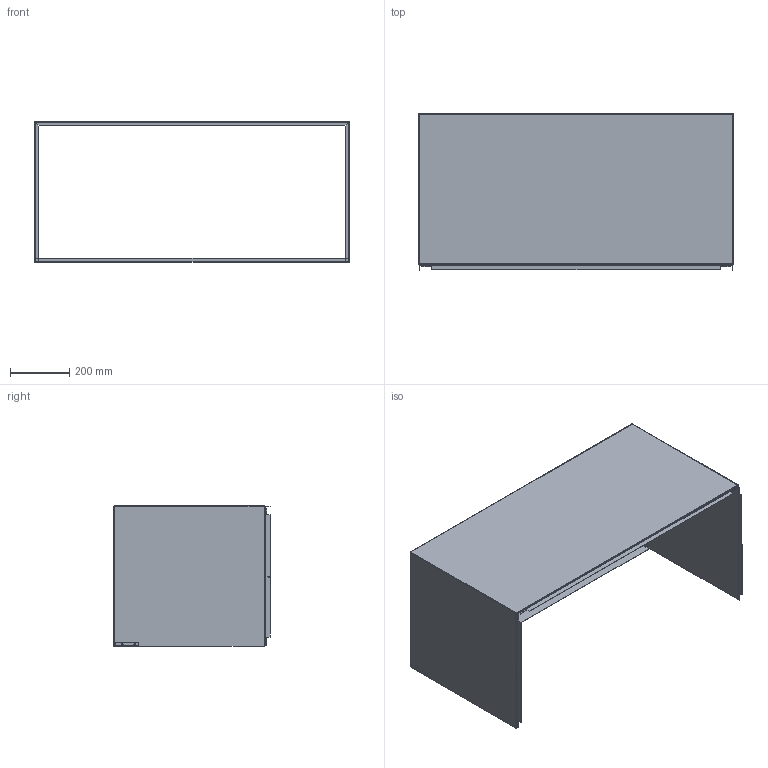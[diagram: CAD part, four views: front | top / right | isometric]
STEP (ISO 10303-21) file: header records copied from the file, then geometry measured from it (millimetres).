
FILE_DESCRIPTION (( 'STEP AP214' ), '1' );
FILE_NAME ('QCX10A-X.STEP', '2016-07-14T18:12:16', ( 'BMC' ), ( 'Bard Manufacturing Co., Inc.' ), 'SwSTEP 2.0', 'SolidWorks 2016', '' );
FILE_SCHEMA (( 'AUTOMOTIVE_DESIGN' ));
Length unit declared in the file: inch
Products named in the file (3): QCX10A-X; 114-113; 104-996
Assembly tree (2 placements, depth 2):
  QCX10A-X
    114-113
    104-996
Bounding box: 1060.45 x 526.12 x 473.87 mm (x, y, z)
Surface area: 2373138.9 mm2 (no closed solid volume)
Topology: 0 solids, 2 shells, 152 faces, 404 edges, 256 vertices
Faces by surface type: plane 88, cylinder 48, bspline 16
Entity records: 5178 total; most frequent: CARTESIAN_POINT 1313, ORIENTED_EDGE 808, DIRECTION 742, EDGE_CURVE 404, VECTOR 284, LINE 284, VERTEX_POINT 256, AXIS2_PLACEMENT_3D 229
